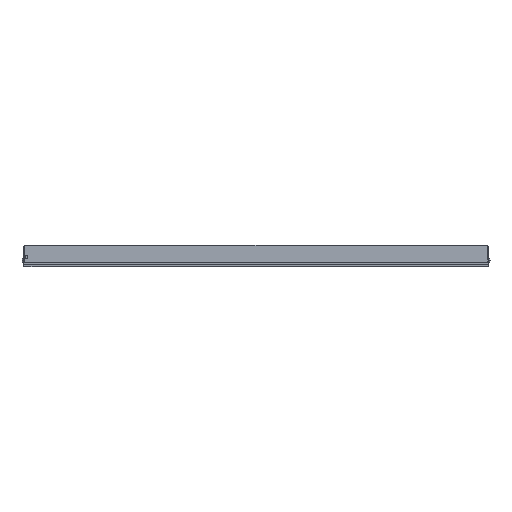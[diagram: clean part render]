
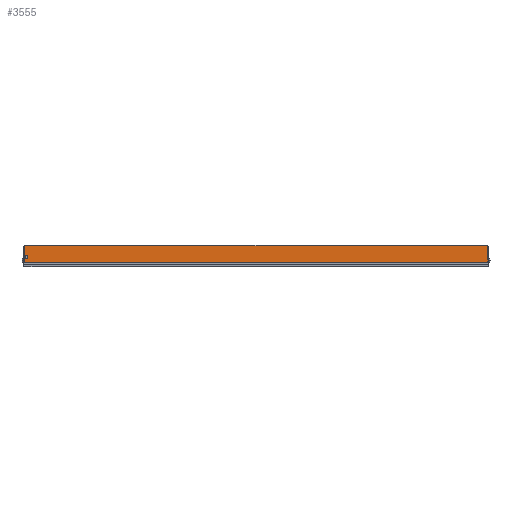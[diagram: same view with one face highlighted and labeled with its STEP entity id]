
A CAD part, top view. The second image highlights one B-rep face of the part: STEP entity #3555.
In plain terms, the highlighted planar face has unit normal (0, 0, 1) as drawn and (1, 0, 0) by its records, which use the part's own axes.
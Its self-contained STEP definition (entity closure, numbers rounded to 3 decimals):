
#332=DIRECTION('',(0.,1.,0.));
#333=VECTOR('',#332,17.499);
#334=CARTESIAN_POINT('',(9.,-4.3,-298.));
#335=LINE('',#334,#333);
#488=CARTESIAN_POINT('',(9.,2.3,295.25));
#489=DIRECTION('',(1.,0.,0.));
#490=DIRECTION('',(0.,0.,-1.));
#491=AXIS2_PLACEMENT_3D('',#488,#489,#490);
#493=CARTESIAN_POINT('',(9.,2.3,295.25));
#494=DIRECTION('',(1.,0.,0.));
#495=DIRECTION('',(0.,0.,1.));
#496=AXIS2_PLACEMENT_3D('',#493,#494,#495);
#498=DIRECTION('',(0.,-1.,0.));
#499=VECTOR('',#498,3.301);
#500=CARTESIAN_POINT('',(9.,16.5,-297.));
#501=LINE('',#500,#499);
#502=DIRECTION('',(0.,0.,-1.));
#503=VECTOR('',#502,1.);
#504=CARTESIAN_POINT('',(9.,13.199,-297.));
#505=LINE('',#504,#503);
#506=DIRECTION('',(0.,0.,1.));
#507=VECTOR('',#506,595.);
#508=CARTESIAN_POINT('',(9.,-4.3,-298.));
#509=LINE('',#508,#507);
#510=DIRECTION('',(0.,0.,-1.));
#511=VECTOR('',#510,594.);
#512=CARTESIAN_POINT('',(9.,16.5,297.));
#513=LINE('',#512,#511);
#552=DIRECTION('',(0.,-1.,0.));
#553=VECTOR('',#552,3.203);
#554=CARTESIAN_POINT('',(9.,16.5,297.));
#555=LINE('',#554,#553);
#556=DIRECTION('',(0.,-1.,0.));
#557=VECTOR('',#556,0.1);
#558=CARTESIAN_POINT('',(9.,-4.2,297.));
#559=LINE('',#558,#557);
#1959=DIRECTION('',(0.,0.,1.));
#1960=VECTOR('',#1959,1.);
#1961=CARTESIAN_POINT('',(9.,13.297,297.));
#1962=LINE('',#1961,#1960);
#1967=DIRECTION('',(0.,-1.,0.));
#1968=VECTOR('',#1967,17.497);
#1969=CARTESIAN_POINT('',(9.,13.297,298.));
#1970=LINE('',#1969,#1968);
#1983=DIRECTION('',(0.,0.,-1.));
#1984=VECTOR('',#1983,1.);
#1985=CARTESIAN_POINT('',(9.,-4.2,298.));
#1986=LINE('',#1985,#1984);
#2266=CARTESIAN_POINT('',(9.,13.297,298.));
#2268=VERTEX_POINT('',#2266);
#2271=CARTESIAN_POINT('',(9.,-4.2,298.));
#2272=VERTEX_POINT('',#2271);
#2499=CARTESIAN_POINT('',(9.,16.5,-297.));
#2501=VERTEX_POINT('',#2499);
#2505=CARTESIAN_POINT('',(9.,-4.3,297.));
#2507=VERTEX_POINT('',#2505);
#2517=CARTESIAN_POINT('',(9.,16.5,297.));
#2518=VERTEX_POINT('',#2517);
#2519=CARTESIAN_POINT('',(9.,2.3,297.));
#2521=VERTEX_POINT('',#2519);
#2525=CARTESIAN_POINT('',(9.,2.3,293.5));
#2526=VERTEX_POINT('',#2525);
#2533=CARTESIAN_POINT('',(9.,13.297,297.));
#2534=VERTEX_POINT('',#2533);
#2536=CARTESIAN_POINT('',(9.,-4.2,297.));
#2538=VERTEX_POINT('',#2536);
#2645=CARTESIAN_POINT('',(9.,13.199,-298.));
#2647=VERTEX_POINT('',#2645);
#2649=CARTESIAN_POINT('',(9.,-4.3,-298.));
#2650=VERTEX_POINT('',#2649);
#2689=CARTESIAN_POINT('',(9.,13.199,-297.));
#2691=VERTEX_POINT('',#2689);
#3526=CARTESIAN_POINT('',(9.,-4.2,297.));
#3527=DIRECTION('',(1.,0.,0.));
#3528=DIRECTION('',(0.,1.,0.));
#3529=AXIS2_PLACEMENT_3D('',#3526,#3527,#3528);
#3530=PLANE('',#3529);
#3531=ORIENTED_EDGE('',*,*,#2754,.T.);
#3532=ORIENTED_EDGE('',*,*,#3099,.T.);
#3533=ORIENTED_EDGE('',*,*,#3083,.F.);
#3534=ORIENTED_EDGE('',*,*,#3516,.T.);
#3536=ORIENTED_EDGE('',*,*,#3535,.F.);
#3538=ORIENTED_EDGE('',*,*,#3537,.F.);
#3540=ORIENTED_EDGE('',*,*,#3539,.F.);
#3542=ORIENTED_EDGE('',*,*,#3541,.F.);
#3544=ORIENTED_EDGE('',*,*,#3543,.F.);
#3546=ORIENTED_EDGE('',*,*,#3545,.T.);
#3547=EDGE_LOOP('',(#3531,#3532,#3533,#3534,#3536,#3538,#3540,#3542,#3544,
#3546));
#3548=FACE_OUTER_BOUND('',#3547,.F.);
#3550=ORIENTED_EDGE('',*,*,#3549,.T.);
#3552=ORIENTED_EDGE('',*,*,#3551,.T.);
#3553=EDGE_LOOP('',(#3550,#3552));
#3554=FACE_BOUND('',#3553,.F.);
#492=CIRCLE('',#491,1.75);
#497=CIRCLE('',#496,1.75);
#2754=EDGE_CURVE('',#2501,#2691,#501,.T.);
#3083=EDGE_CURVE('',#2650,#2647,#335,.T.);
#3099=EDGE_CURVE('',#2691,#2647,#505,.T.);
#3516=EDGE_CURVE('',#2650,#2507,#509,.T.);
#3535=EDGE_CURVE('',#2538,#2507,#559,.T.);
#3537=EDGE_CURVE('',#2272,#2538,#1986,.T.);
#3539=EDGE_CURVE('',#2268,#2272,#1970,.T.);
#3541=EDGE_CURVE('',#2534,#2268,#1962,.T.);
#3543=EDGE_CURVE('',#2518,#2534,#555,.T.);
#3545=EDGE_CURVE('',#2518,#2501,#513,.T.);
#3549=EDGE_CURVE('',#2526,#2521,#492,.T.);
#3551=EDGE_CURVE('',#2521,#2526,#497,.T.);
#3555=ADVANCED_FACE('',(#3548,#3554),#3530,.T.);
